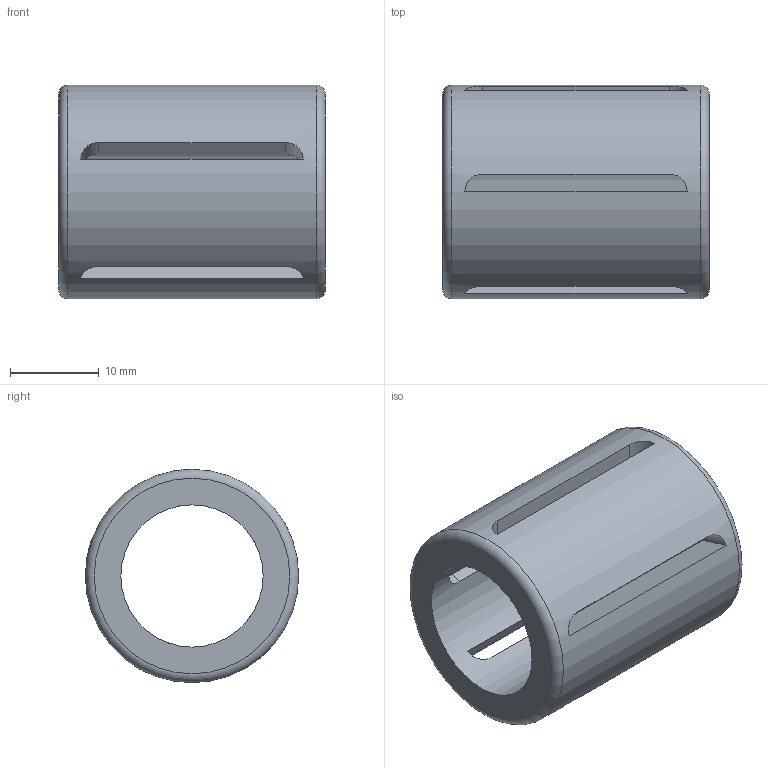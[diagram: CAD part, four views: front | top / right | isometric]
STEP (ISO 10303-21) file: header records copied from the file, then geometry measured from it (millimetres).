
FILE_DESCRIPTION(/* description */ ('Unknown'),/* implementation_level */ '2;1');
FILE_NAME(/* name */ 'KH1630',/* time_stamp */ '2025-02-04T09:48:15+08:00',/* author */ ('Unknown'),/* organization */ ('Unknown'),/* preprocessor_version */ 'ST-DEVELOPER v18.102',/* originating_system */ 'Solid Edge',/* authorisation */ 'Unknown');
FILE_SCHEMA (('AUTOMOTIVE_DESIGN {1 0 10303 214 3 1 1}'));
Length unit declared in the file: millimetre
Products named in the file (1): KH1630
Bounding box: 30 x 24 x 24 mm (x, y, z)
Volume: 6535.8 mm3; surface area: 4776.6 mm2
Topology: 1 solids, 1 shells, 26 faces, 70 edges, 46 vertices
Faces by surface type: cylinder 12, plane 12, torus 2
Full cylindrical faces by diameter (mm): 16 x1, 24 x1
Entity records: 878 total; most frequent: CARTESIAN_POINT 219, ORIENTED_EDGE 132, DIRECTION 106, EDGE_CURVE 66, VERTEX_POINT 46, EDGE_LOOP 42, FACE_BOUND 42, LINE 40
